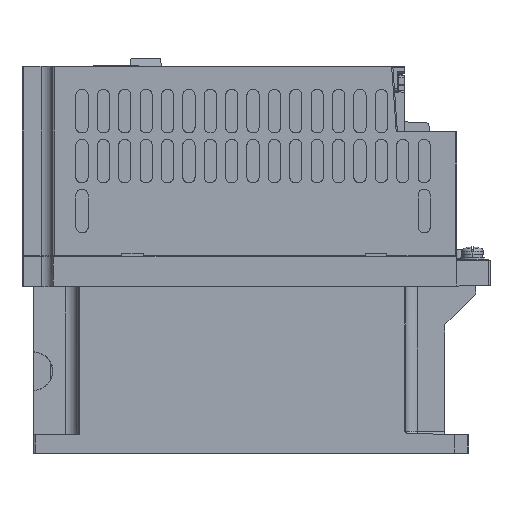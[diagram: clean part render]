
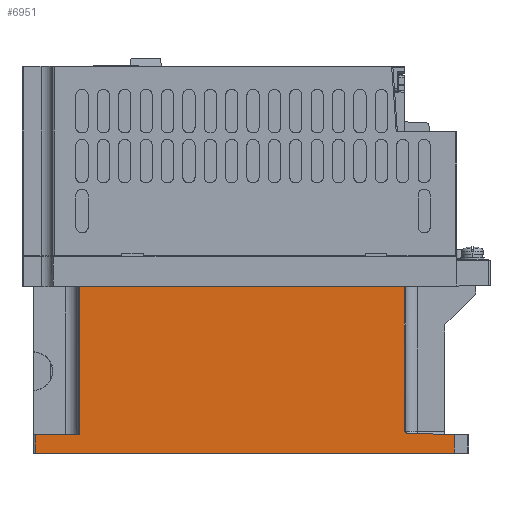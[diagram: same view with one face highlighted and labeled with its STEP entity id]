
A CAD part, left-side view. The second image highlights one B-rep face of the part: STEP entity #6951.
In plain terms, the highlighted planar face has unit normal (-1, 0, 0).
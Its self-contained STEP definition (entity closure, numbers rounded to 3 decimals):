
#1544=PLANE('',#104824);
#5426=B_SPLINE_CURVE_WITH_KNOTS('',3,(#147976,#147977,#147978,#147979,#147980,
#147981,#147982,#147983,#147984,#147985),.UNSPECIFIED.,.F.,.F.,(4,2,2,2,
4),(0.,0.5,0.625,0.75,1.),
 .UNSPECIFIED.);
#6951=ADVANCED_FACE('',(#13372),#1544,.T.);
#13372=FACE_OUTER_BOUND('',#18775,.T.);
#18775=EDGE_LOOP('',(#52305,#52306,#52307,#52308,#52309,#52310,#52311,#52312,
#52313,#52314));
#26569=LINE('',#146707,#37939);
#26680=LINE('',#147944,#38050);
#26686=LINE('',#147965,#38056);
#26687=LINE('',#147967,#38057);
#26688=LINE('',#147970,#38058);
#26689=LINE('',#147972,#38059);
#26690=LINE('',#147974,#38060);
#26691=LINE('',#147975,#38061);
#26692=LINE('',#147987,#38062);
#37939=VECTOR('',#115867,1.);
#38050=VECTOR('',#115992,1.);
#38056=VECTOR('',#116006,1.);
#38057=VECTOR('',#116009,1.);
#38058=VECTOR('',#116010,1.);
#38059=VECTOR('',#116011,1.);
#38060=VECTOR('',#116012,1.);
#38061=VECTOR('',#116013,1.);
#38062=VECTOR('',#116014,1.);
#52305=ORIENTED_EDGE('',*,*,#89992,.T.);
#52306=ORIENTED_EDGE('',*,*,#89993,.F.);
#52307=ORIENTED_EDGE('',*,*,#89994,.F.);
#52308=ORIENTED_EDGE('',*,*,#89995,.T.);
#52309=ORIENTED_EDGE('',*,*,#89991,.F.);
#52310=ORIENTED_EDGE('',*,*,#89981,.F.);
#52311=ORIENTED_EDGE('',*,*,#89996,.T.);
#52312=ORIENTED_EDGE('',*,*,#89809,.T.);
#52313=ORIENTED_EDGE('',*,*,#89997,.T.);
#52314=ORIENTED_EDGE('',*,*,#89998,.F.);
#79443=VERTEX_POINT('',#146706);
#79444=VERTEX_POINT('',#146708);
#79604=VERTEX_POINT('',#147943);
#79605=VERTEX_POINT('',#147945);
#79611=VERTEX_POINT('',#147963);
#79612=VERTEX_POINT('',#147968);
#79613=VERTEX_POINT('',#147969);
#79614=VERTEX_POINT('',#147971);
#79615=VERTEX_POINT('',#147973);
#79616=VERTEX_POINT('',#147986);
#89809=EDGE_CURVE('',#79444,#79443,#26569,.T.);
#89981=EDGE_CURVE('',#79604,#79605,#26680,.T.);
#89991=EDGE_CURVE('',#79605,#79611,#26686,.T.);
#89992=EDGE_CURVE('',#79612,#79613,#26687,.T.);
#89993=EDGE_CURVE('',#79614,#79613,#26688,.T.);
#89994=EDGE_CURVE('',#79615,#79614,#26689,.T.);
#89995=EDGE_CURVE('',#79615,#79611,#26690,.T.);
#89996=EDGE_CURVE('',#79604,#79444,#26691,.T.);
#89997=EDGE_CURVE('',#79443,#79616,#5426,.T.);
#89998=EDGE_CURVE('',#79612,#79616,#26692,.T.);
#104824=AXIS2_PLACEMENT_3D('',#147988,#116015,#116016);
#115867=DIRECTION('',(0.,1.,0.017));
#115992=DIRECTION('',(0.,1.,0.));
#116006=DIRECTION('',(0.,0.,1.));
#116009=DIRECTION('',(0.,-1.,0.017));
#116010=DIRECTION('',(0.,-1.,0.));
#116011=DIRECTION('',(0.,0.,1.));
#116012=DIRECTION('',(0.,1.,0.));
#116013=DIRECTION('',(0.,0.,1.));
#116014=DIRECTION('',(0.,0.,-1.));
#116015=DIRECTION('',(-1.,0.,0.));
#116016=DIRECTION('',(0.,1.,0.));
#146706=CARTESIAN_POINT('',(5.,34.603,8.072));
#146707=CARTESIAN_POINT('',(5.,15.,7.73));
#146708=CARTESIAN_POINT('',(5.,15.,7.73));
#147943=CARTESIAN_POINT('',(5.,15.,-0.2));
#147944=CARTESIAN_POINT('',(5.,15.,-0.2));
#147945=CARTESIAN_POINT('',(5.,191.5,-0.2));
#147963=CARTESIAN_POINT('',(5.,191.5,7.556));
#147965=CARTESIAN_POINT('',(5.,191.5,-0.2));
#147967=CARTESIAN_POINT('',(5.,36.,69.791));
#147968=CARTESIAN_POINT('',(5.,36.,69.791));
#147969=CARTESIAN_POINT('',(5.,21.5,70.044));
#147970=CARTESIAN_POINT('',(5.,172.764,70.044));
#147971=CARTESIAN_POINT('',(5.,172.764,70.044));
#147972=CARTESIAN_POINT('',(5.,172.764,7.556));
#147973=CARTESIAN_POINT('',(5.,172.764,7.556));
#147974=CARTESIAN_POINT('',(5.,172.764,7.556));
#147975=CARTESIAN_POINT('',(5.,15.,-0.2));
#147976=CARTESIAN_POINT('',(5.,34.603,8.072));
#147977=CARTESIAN_POINT('',(5.,34.869,8.077));
#147978=CARTESIAN_POINT('',(5.,35.138,8.182));
#147979=CARTESIAN_POINT('',(5.,35.416,8.393));
#147980=CARTESIAN_POINT('',(5.,35.472,8.441));
#147981=CARTESIAN_POINT('',(5.,35.584,8.551));
#147982=CARTESIAN_POINT('',(5.,35.662,8.638));
#147983=CARTESIAN_POINT('',(5.,35.768,8.765));
#147984=CARTESIAN_POINT('',(5.,35.869,8.904));
#147985=CARTESIAN_POINT('',(5.,36.,9.097));
#147986=CARTESIAN_POINT('',(5.,36.,9.097));
#147987=CARTESIAN_POINT('',(5.,36.,69.791));
#147988=CARTESIAN_POINT('',(5.,173.5,69.8));
